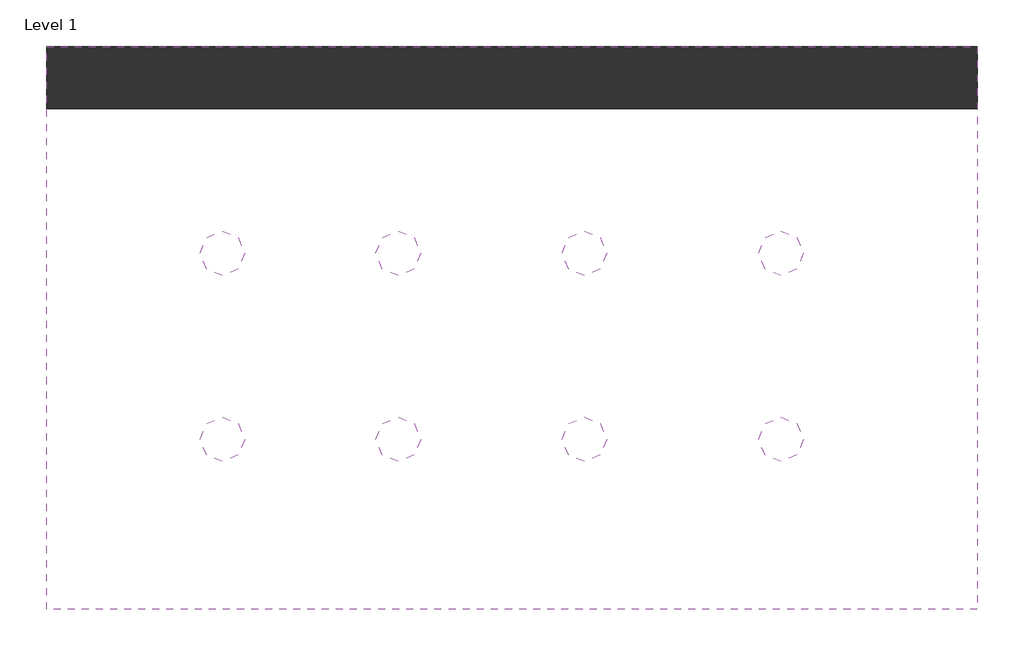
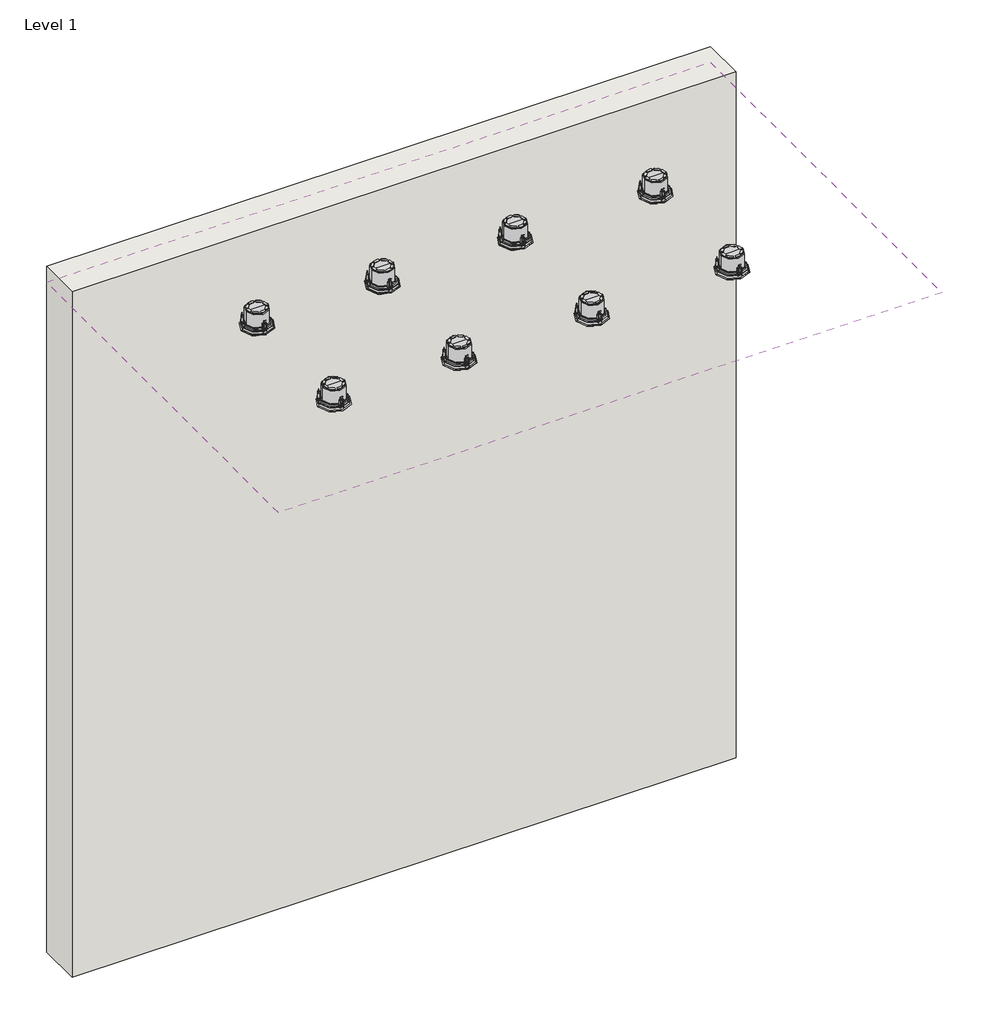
# One storey: 8 proxies, 1 covering, 1 wall.
"""IFC4 building model written with IfcOpenShell, lengths in millimetres."""

from ifc_helpers import new_model, si_unit, frame, origin, origin_with_axes, place, context, project, spatial, polyline, outline, extrude, transform, mapped, element, save
from components import communication_devices_f28cc3d0, communication_devices_3dddd781, communication_devices_d1a9b3c7

model = new_model("IFC4")

# Units and contexts
model_context = context("Model", 3, world=origin())
ifc_project = project(units=[si_unit("LENGTHUNIT", "METRE", prefix="MILLI")], contexts=[model_context])

# Site, building, storey
site = spatial("IfcSite", under=ifc_project)
building = spatial("IfcBuilding", under=site)
storey = spatial("IfcBuildingStorey", under=building, Name="Level 1", Elevation=0.0)

# Proxies
placement = place(None, origin())
communication_devices_shape = communication_devices_f28cc3d0(model_context)
communication_devices_2_shape = communication_devices_3dddd781(model_context)
communication_devices_3_shape = communication_devices_d1a9b3c7(model_context)
element("IfcBuildingElementProxy", 1, Name="DL 10-165_T plus-EN54 : DL 10-165/T plus-EN54", ObjectType="DL 10-165_T plus-EN54 : DL 10-165/T plus-EN54", at=placement, inside=storey, context=model_context, shape_type="MappedRepresentation", body=[
    mapped(communication_devices_shape, transform((2264.9973575, 1607.5766815, 2438.4), x_axis=(1.0, 0.0, 0.0), y_axis=(0.0, 1.0, 0.0), z_axis=(0.0, 0.0, 1.0))),
    mapped(communication_devices_2_shape, transform((2264.9973575, 1607.5766815, 2438.4), x_axis=(1.0, 0.0, 0.0), y_axis=(0.0, 1.0, 0.0), z_axis=(0.0, 0.0, 1.0))),
    mapped(communication_devices_3_shape, transform((2264.9973575, 1607.5766815, 2438.4), x_axis=(1.0, 0.0, 0.0), y_axis=(0.0, 1.0, 0.0), z_axis=(0.0, 0.0, 1.0))),
])
element("IfcBuildingElementProxy", 2, Name="DL 10-165_T plus-EN54 : DL 10-165/T plus-EN54", ObjectType="DL 10-165_T plus-EN54 : DL 10-165/T plus-EN54", at=placement, inside=storey, context=model_context, shape_type="MappedRepresentation", body=[
    mapped(communication_devices_shape, transform((2696.7973575, 1607.5766815, 2438.4), x_axis=(1.0, 0.0, 0.0), y_axis=(0.0, 1.0, 0.0), z_axis=(0.0, 0.0, 1.0))),
    mapped(communication_devices_2_shape, transform((2696.7973575, 1607.5766815, 2438.4), x_axis=(1.0, 0.0, 0.0), y_axis=(0.0, 1.0, 0.0), z_axis=(0.0, 0.0, 1.0))),
    mapped(communication_devices_3_shape, transform((2696.7973575, 1607.5766815, 2438.4), x_axis=(1.0, 0.0, 0.0), y_axis=(0.0, 1.0, 0.0), z_axis=(0.0, 0.0, 1.0))),
])
element("IfcBuildingElementProxy", 3, Name="DL 10-165_T plus-EN54 : DL 10-165/T plus-EN54", ObjectType="DL 10-165_T plus-EN54 : DL 10-165/T plus-EN54", at=placement, inside=storey, context=model_context, shape_type="MappedRepresentation", body=[
    mapped(communication_devices_shape, transform((3153.9973575, 1607.5766815, 2438.4), x_axis=(1.0, 0.0, 0.0), y_axis=(0.0, 1.0, 0.0), z_axis=(0.0, 0.0, 1.0))),
    mapped(communication_devices_2_shape, transform((3153.9973575, 1607.5766815, 2438.4), x_axis=(1.0, 0.0, 0.0), y_axis=(0.0, 1.0, 0.0), z_axis=(0.0, 0.0, 1.0))),
    mapped(communication_devices_3_shape, transform((3153.9973575, 1607.5766815, 2438.4), x_axis=(1.0, 0.0, 0.0), y_axis=(0.0, 1.0, 0.0), z_axis=(0.0, 0.0, 1.0))),
])
element("IfcBuildingElementProxy", 4, Name="DL 10-165_T plus-EN54 : DL 10-165/T plus-EN54", ObjectType="DL 10-165_T plus-EN54 : DL 10-165/T plus-EN54", at=placement, inside=storey, context=model_context, shape_type="MappedRepresentation", body=[
    mapped(communication_devices_shape, transform((3636.5973575, 1607.5766815, 2438.4), x_axis=(1.0, 0.0, 0.0), y_axis=(0.0, 1.0, 0.0), z_axis=(0.0, 0.0, 1.0))),
    mapped(communication_devices_2_shape, transform((3636.5973575, 1607.5766815, 2438.4), x_axis=(1.0, 0.0, 0.0), y_axis=(0.0, 1.0, 0.0), z_axis=(0.0, 0.0, 1.0))),
    mapped(communication_devices_3_shape, transform((3636.5973575, 1607.5766815, 2438.4), x_axis=(1.0, 0.0, 0.0), y_axis=(0.0, 1.0, 0.0), z_axis=(0.0, 0.0, 1.0))),
])
element("IfcBuildingElementProxy", 5, Name="DL 10-165_T plus-EN54 : DL 10-165/T plus-EN54", ObjectType="DL 10-165_T plus-EN54 : DL 10-165/T plus-EN54", at=placement, inside=storey, context=model_context, shape_type="MappedRepresentation", body=[
    mapped(communication_devices_shape, transform((2264.9973575, 1150.3766815, 2438.4), x_axis=(1.0, 0.0, 0.0), y_axis=(0.0, 1.0, 0.0), z_axis=(0.0, 0.0, 1.0))),
    mapped(communication_devices_2_shape, transform((2264.9973575, 1150.3766815, 2438.4), x_axis=(1.0, 0.0, 0.0), y_axis=(0.0, 1.0, 0.0), z_axis=(0.0, 0.0, 1.0))),
    mapped(communication_devices_3_shape, transform((2264.9973575, 1150.3766815, 2438.4), x_axis=(1.0, 0.0, 0.0), y_axis=(0.0, 1.0, 0.0), z_axis=(0.0, 0.0, 1.0))),
])
element("IfcBuildingElementProxy", 6, Name="DL 10-165_T plus-EN54 : DL 10-165/T plus-EN54", ObjectType="DL 10-165_T plus-EN54 : DL 10-165/T plus-EN54", at=placement, inside=storey, context=model_context, shape_type="MappedRepresentation", body=[
    mapped(communication_devices_shape, transform((2696.7973575, 1150.3766815, 2438.4), x_axis=(1.0, 0.0, 0.0), y_axis=(0.0, 1.0, 0.0), z_axis=(0.0, 0.0, 1.0))),
    mapped(communication_devices_2_shape, transform((2696.7973575, 1150.3766815, 2438.4), x_axis=(1.0, 0.0, 0.0), y_axis=(0.0, 1.0, 0.0), z_axis=(0.0, 0.0, 1.0))),
    mapped(communication_devices_3_shape, transform((2696.7973575, 1150.3766815, 2438.4), x_axis=(1.0, 0.0, 0.0), y_axis=(0.0, 1.0, 0.0), z_axis=(0.0, 0.0, 1.0))),
])
element("IfcBuildingElementProxy", 7, Name="DL 10-165_T plus-EN54 : DL 10-165/T plus-EN54", ObjectType="DL 10-165_T plus-EN54 : DL 10-165/T plus-EN54", at=placement, inside=storey, context=model_context, shape_type="MappedRepresentation", body=[
    mapped(communication_devices_shape, transform((3153.9973575, 1150.3766815, 2438.4), x_axis=(1.0, 0.0, 0.0), y_axis=(0.0, 1.0, 0.0), z_axis=(0.0, 0.0, 1.0))),
    mapped(communication_devices_2_shape, transform((3153.9973575, 1150.3766815, 2438.4), x_axis=(1.0, 0.0, 0.0), y_axis=(0.0, 1.0, 0.0), z_axis=(0.0, 0.0, 1.0))),
    mapped(communication_devices_3_shape, transform((3153.9973575, 1150.3766815, 2438.4), x_axis=(1.0, 0.0, 0.0), y_axis=(0.0, 1.0, 0.0), z_axis=(0.0, 0.0, 1.0))),
])
element("IfcBuildingElementProxy", 8, Name="DL 10-165_T plus-EN54 : DL 10-165/T plus-EN54", ObjectType="DL 10-165_T plus-EN54 : DL 10-165/T plus-EN54", at=placement, inside=storey, context=model_context, shape_type="MappedRepresentation", body=[
    mapped(communication_devices_shape, transform((3636.5973575, 1150.3766815, 2438.4), x_axis=(1.0, 0.0, 0.0), y_axis=(0.0, 1.0, 0.0), z_axis=(0.0, 0.0, 1.0))),
    mapped(communication_devices_2_shape, transform((3636.5973575, 1150.3766815, 2438.4), x_axis=(1.0, 0.0, 0.0), y_axis=(0.0, 1.0, 0.0), z_axis=(0.0, 0.0, 1.0))),
    mapped(communication_devices_3_shape, transform((3636.5973575, 1150.3766815, 2438.4), x_axis=(1.0, 0.0, 0.0), y_axis=(0.0, 1.0, 0.0), z_axis=(0.0, 0.0, 1.0))),
])

# Covering
element("IfcCovering", 9, ObjectType="2' x 4' ACT System", at=placement, inside=storey, context=model_context, shape_type="SweptSolid", body=[
    extrude(outline(polyline([(4119.1973575, 2115.5766815), (4119.1973575, 732.2741036), (1833.1973575, 732.2741036), (1833.1973575, 2115.5766815), (4119.1973575, 2115.5766815)])), frame((0.0, 0.0, 2438.4), z_axis=(0.0, 0.0, 1.0), x_axis=(1.0, 0.0, 0.0)), (0.0, 0.0, 1.0), 57.15),
])

# Wall
element("IfcWall", 10, ObjectType="Exterior - 6\" Generic", at=placement, inside=storey, context=model_context, shape_type="SweptSolid", body=[
    extrude(outline(polyline([(4119.1973575, 1963.1766815), (1833.1973575, 1963.1766815), (1833.1973575, 2115.5766815), (4119.1973575, 2115.5766815), (4119.1973575, 1963.1766815)])), origin_with_axes(), (0.0, 0.0, 1.0), 2495.55),
])

save(model, "model.ifc")
